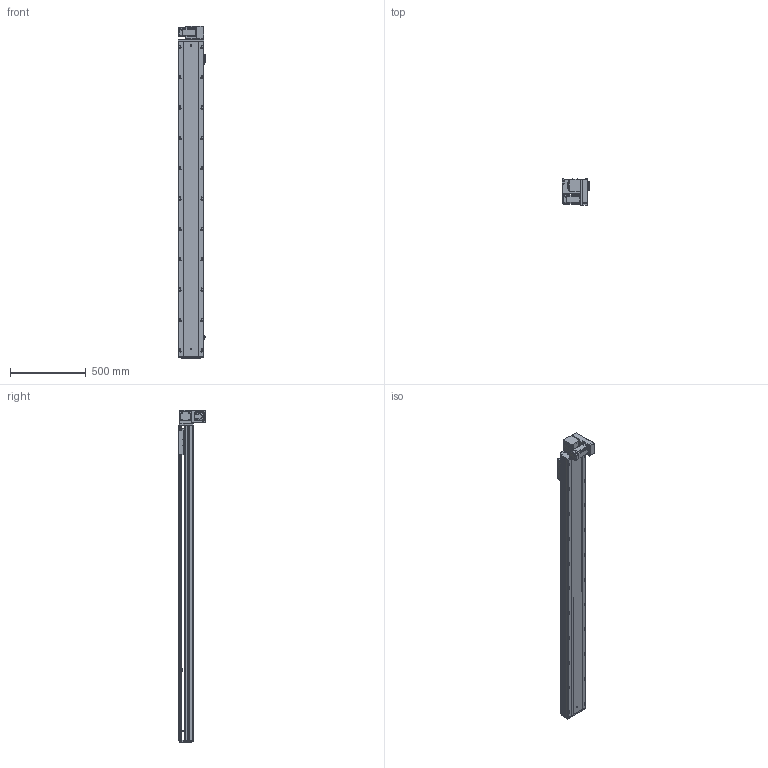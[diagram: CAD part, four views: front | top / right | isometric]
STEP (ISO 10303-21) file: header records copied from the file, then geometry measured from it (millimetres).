
FILE_DESCRIPTION (( 'STEP AP203' ), '1' );
FILE_NAME ('RY170-T-300-DR-P400W.SLDASM_1800.step', '2021-03-01T08:24:36', ( '盈信电脑' ), ( '东莞市道滘镇水果街19号' ), 'SwSTEP 2.0', 'SolidWorks 2012', '' );
FILE_SCHEMA (( 'CONFIG_CONTROL_DESIGN' ));
Length unit declared in the file: millimetre
Products named in the file (19): 15; RY170-T-300-DR-P400W.SLDASM_1800; 滅袉蝶18-10; RY170-T肮祭謫裔啣; RY170-T-呴雄粣揤踡啣; RY170-T蹟翐M4; RY170-T肮祭湍揤踡輸2; RY170-T肮祭湍揤踡輸1; RY120-T主同步轮轴承压盖; RY170同步轮电机安装板(400W); RY170翋肮祭謫釱; RY170肮祭謫萇儂欶; RY170肮祭謫ヶ裔啣; RY170-T-300肮祭謫倰第裔啣-DR_1800; RY170外置感应片(200共用）; 覜茼ん672; RY170綴裔啣; RY170肮祭湍臏賑輸; RY170-T-300肮祭謫倰第菁釱-DR_1800
Assembly tree (23 placements, depth 2):
  RY170-T-300-DR-P400W.SLDASM_1800
    RY170-T-300肮祭謫倰第菁釱-DR_1800
    RY170肮祭湍臏賑輸
    RY170-T-300肮祭謫倰第裔啣-DR_1800
    RY170綴裔啣
    覜茼ん672  x3
    RY170外置感应片(200共用）
    RY170肮祭謫ヶ裔啣
    RY170翋肮祭謫釱
    RY170同步轮电机安装板(400W)
    RY170肮祭謫萇儂欶
    RY170-T肮祭湍揤踡輸1  x2
    RY170-T肮祭湍揤踡輸2  x2
    RY120-T主同步轮轴承压盖
    RY170-T肮祭謫裔啣
    RY170-T蹟翐M4
    滅袉蝶18-10  x2
    RY170-T-呴雄粣揤踡啣
    15
Bounding box: 183.7 x 178 x 2188 mm (x, y, z)
Volume: 10252468.8 mm3; surface area: 3525639.5 mm2
Topology: 23 solids, 23 shells, 2970 faces, 8310 edges, 5305 vertices
Faces by surface type: cylinder 1376, plane 1272, cone 292, bspline 30
Entity records: 90157 total; most frequent: CARTESIAN_POINT 20715, ORIENTED_EDGE 14216, DIRECTION 13884, EDGE_CURVE 7108, AXIS2_PLACEMENT_3D 4924, VERTEX_POINT 4661, VECTOR 4036, LINE 4036
